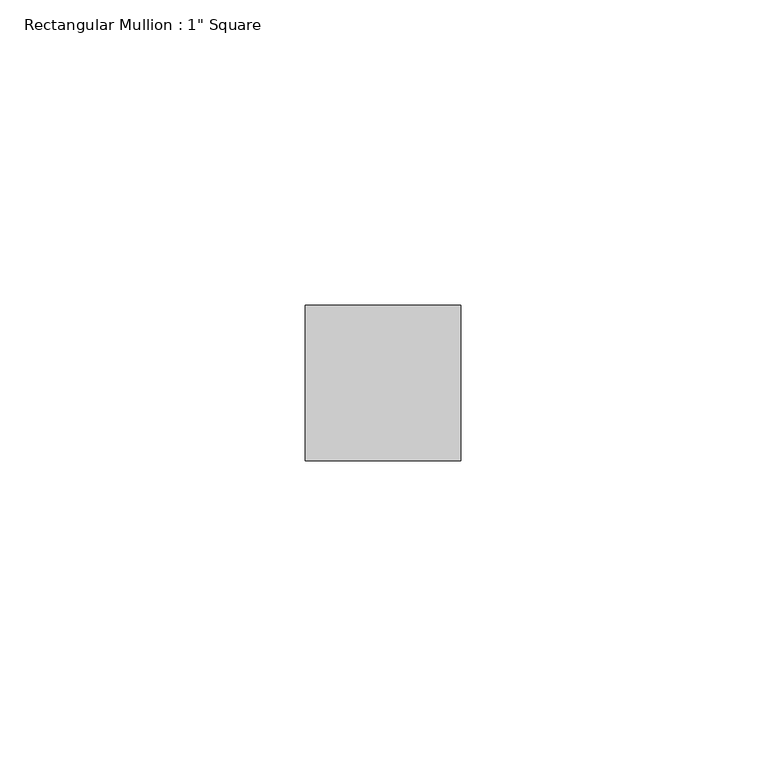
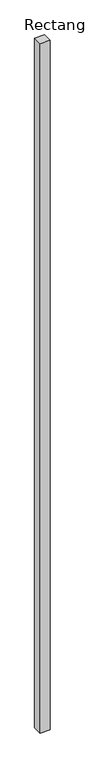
"""IFC4 building model written with IfcOpenShell, lengths in millimetres: member geometry."""

import ifcopenshell
import ifcopenshell.guid

model = None  # the IFC model being written
_history = None  # IfcOwnerHistory: only IFC2X3 demands one
_inside = {}  # id of a spatial element -> (the spatial element, [elements in it])
_under = {}  # id of a project, library or spatial element -> (it, [spatial elements below it])
_declared = {}  # id of a project -> (the project, [libraries it declares])
_typed = {}  # id of a type object -> (the type object, [elements of that type])
_made_of = {}  # id of a material, layer set ... -> (it, [elements and type objects made of it])


def new_model(schema):
    """Start an empty IFC model of exactly this schema.

    Asked for "IFC4X3", IfcOpenShell would pick the latest addendum, in which some entities
    have other attributes; the version numbers below select the first issue.
    IFC2X3 requires an IfcOwnerHistory on every rooted entity: one is made here for all.
    """
    global model, _history
    if schema == "IFC4X3":
        model = ifcopenshell.file(schema_version=(4, 3, 0, 0))
    else:
        model = ifcopenshell.file(schema=schema)
    _inside.clear()
    _under.clear()
    _declared.clear()
    _typed.clear()
    _made_of.clear()
    _history = None
    if model.schema == "IFC2X3":
        org = make("IfcOrganization", Name="unknown")
        user = make(
            "IfcPersonAndOrganization",
            ThePerson=make("IfcPerson", FamilyName="unknown"),
            TheOrganization=org,
        )
        app = make(
            "IfcApplication",
            ApplicationDeveloper=org,
            Version="unknown",
            ApplicationFullName="unknown",
            ApplicationIdentifier="unknown",
        )
        _history = make(
            "IfcOwnerHistory",
            OwningUser=user,
            OwningApplication=app,
            ChangeAction="ADDED",
            CreationDate=0,
        )
    return model


def make(cls, **values):
    """One entity of the class cls with the attributes given. An attribute that is None is left unset."""
    return model.create_entity(
        cls, **{name: value for name, value in values.items() if value is not None}
    )


def rooted(cls, **values):
    """An entity with a GlobalId (a new one), such as an element, a storey or a relation."""
    return make(cls, GlobalId=ifcopenshell.guid.new(), OwnerHistory=_history, **values)


def si_unit(unit_type, name, prefix=None):
    """IfcSIUnit, for example si_unit("LENGTHUNIT", "METRE", prefix="MILLI")."""
    return make("IfcSIUnit", UnitType=unit_type, Prefix=prefix, Name=name)


def assignment(units):
    """IfcUnitAssignment: the units of a project."""
    return None if units is None else make("IfcUnitAssignment", Units=units)


def point(xyz):
    """IfcCartesianPoint."""
    return None if xyz is None else make("IfcCartesianPoint", Coordinates=xyz)


def direction(xyz):
    """IfcDirection."""
    return None if xyz is None else make("IfcDirection", DirectionRatios=xyz)


def frame(location, z_axis=None, x_axis=None):
    """IfcAxis2Placement3D, a coordinate frame: its origin and axes. An axis left out is left unset."""
    return make(
        "IfcAxis2Placement3D",
        Location=point(location),
        Axis=direction(z_axis),
        RefDirection=direction(x_axis),
    )


def origin():
    """The frame at (0, 0, 0) with its axes left unset."""
    return frame((0.0, 0.0, 0.0))


def place(relative_to, where):
    """IfcLocalPlacement: puts the frame where relative to a parent placement (None: the world)."""
    return make(
        "IfcLocalPlacement", PlacementRelTo=relative_to, RelativePlacement=where
    )


def context(
    kind, dimensions, precision=None, world=None, true_north=None, identifier=None
):
    """IfcGeometricRepresentationContext, for example the 3D "Model" context."""
    return make(
        "IfcGeometricRepresentationContext",
        ContextIdentifier=identifier,
        ContextType=kind,
        CoordinateSpaceDimension=dimensions,
        Precision=precision,
        WorldCoordinateSystem=world,
        TrueNorth=true_north,
    )


def project(units=None, contexts=None):
    """IfcProject with its units and contexts."""
    return rooted(
        "IfcProject",
        Name="project",
        RepresentationContexts=contexts,
        UnitsInContext=assignment(units),
    )


def spatial(cls, under=None, at=None, **own):
    """A site, building, storey or space (cls), placed at a placement, below another one or the project."""
    s = rooted(cls, ObjectPlacement=at, **own)
    if under is not None:
        _under.setdefault(under.id(), (under, []))[1].append(s)
    return s


def polyline(points):
    """IfcPolyline through the points."""
    return make("IfcPolyline", Points=[point(p) for p in points])


def outline(outer, holes=None, kind="AREA"):
    """IfcArbitraryClosedProfileDef: a profile drawn as a closed curve; with holes, ...WithVoids."""
    if holes is None:
        return make("IfcArbitraryClosedProfileDef", ProfileType=kind, OuterCurve=outer)
    return make(
        "IfcArbitraryProfileDefWithVoids",
        ProfileType=kind,
        OuterCurve=outer,
        InnerCurves=holes,
    )


def extrude(swept, where, along, depth):
    """IfcExtrudedAreaSolid: the profile swept, set in the frame where, extruded along a direction by depth."""
    return make(
        "IfcExtrudedAreaSolid",
        SweptArea=swept,
        Position=where,
        ExtrudedDirection=direction(along),
        Depth=depth,
    )


def shape(context_of_items, identifier, shape_type, items):
    """IfcShapeRepresentation: the items that make up one representation, for example the "Body"."""
    return make(
        "IfcShapeRepresentation",
        ContextOfItems=context_of_items,
        RepresentationIdentifier=identifier,
        RepresentationType=shape_type,
        Items=items,
    )


def source(mapping_origin, context_of_items, identifier, shape_type, items):
    """IfcRepresentationMap: a shape defined once, which mapped items show again and again."""
    return make(
        "IfcRepresentationMap",
        MappingOrigin=mapping_origin,
        MappedRepresentation=shape(context_of_items, identifier, shape_type, items),
    )


def transform(
    local_origin,
    x_axis=None,
    y_axis=None,
    z_axis=None,
    scale=None,
    scale2=None,
    scale3=None,
    uniform=True,
):
    """IfcCartesianTransformationOperator3D, or its non-uniform kind. x_axis, y_axis, z_axis: its Axis1, 2, 3."""
    if uniform:
        return make(
            "IfcCartesianTransformationOperator3D",
            Axis1=direction(x_axis),
            Axis2=direction(y_axis),
            LocalOrigin=point(local_origin),
            Scale=scale,
            Axis3=direction(z_axis),
        )
    return make(
        "IfcCartesianTransformationOperator3DnonUniform",
        Axis1=direction(x_axis),
        Axis2=direction(y_axis),
        LocalOrigin=point(local_origin),
        Scale=scale,
        Axis3=direction(z_axis),
        Scale2=scale2,
        Scale3=scale3,
    )


def mapped(mapping_source, mapping_target):
    """IfcMappedItem: shows the shape of a source again, moved by a transform."""
    return make(
        "IfcMappedItem", MappingSource=mapping_source, MappingTarget=mapping_target
    )


def made_of(thing, what):
    """Note that an element or type object is made of a material, layer set ...; save() writes the relation."""
    if what is not None:
        _made_of.setdefault(what.id(), (what, []))[1].append(thing)
    return thing


def element(
    cls,
    number,
    at=None,
    inside=None,
    cuts=None,
    type_object=None,
    material=None,
    context=None,
    identifier="Body",
    shape_type=None,
    held_by="IfcProductDefinitionShape",
    body=None,
    shapes=None,
    **own,
):
    """One element of the class cls, such as IfcWall. Its Tag is "e" and its number.

    at: its placement. inside: the storey or other place that contains it. cuts: it is an
    opening in that element (IfcRelVoidsElement). A single representation is given by context,
    identifier, shape_type and body (its items); several are given by shapes. held_by: the class
    of the entity that holds the representations. save() writes the other relations.
    """
    e = rooted(cls, Tag="e%d" % number, ObjectPlacement=at, **own)
    if body is not None:
        shapes = [shape(context, identifier, shape_type, body)]
    if shapes is not None:
        e.Representation = make(held_by, Representations=shapes)
    if inside is not None:
        _inside.setdefault(inside.id(), (inside, []))[1].append(e)
    if cuts is not None:
        rooted(
            "IfcRelVoidsElement", RelatingBuildingElement=cuts, RelatedOpeningElement=e
        )
    if type_object is not None:
        _typed.setdefault(type_object.id(), (type_object, []))[1].append(e)
    return made_of(e, material)


def aggregate(whole, parts):
    """IfcRelAggregates: a whole, such as a stair, and the parts it consists of."""
    return rooted("IfcRelAggregates", RelatingObject=whole, RelatedObjects=parts)


def save(model, path):
    """Write the relations noted so far, then the file.

    IfcRelAggregates (storeys below a building ...), IfcRelContainedInSpatialStructure (elements
    in a storey), IfcRelDefinesByType, IfcRelAssociatesMaterial and IfcRelDeclares: one each for
    every whole, place, type object, material and project.
    """
    for whole, parts in _under.values():
        aggregate(whole, parts)
    for where, things in _inside.values():
        rooted(
            "IfcRelContainedInSpatialStructure",
            RelatedElements=things,
            RelatingStructure=where,
        )
    for kind, things in _typed.values():
        rooted("IfcRelDefinesByType", RelatedObjects=things, RelatingType=kind)
    for what, things in _made_of.values():
        rooted("IfcRelAssociatesMaterial", RelatedObjects=things, RelatingMaterial=what)
    for by, libraries in _declared.values():
        rooted("IfcRelDeclares", RelatingContext=by, RelatedDefinitions=libraries)
    model.write(path)


def member_f0155a20(model_context):
    return source(origin(), model_context, "Body", "SweptSolid", [
        extrude(outline(polyline([(12.7, 12.7), (12.7, -12.7), (-12.7, -12.7), (-12.7, 12.7), (12.7, 12.7)])), frame((0.0, 0.0, -1914.3683635), z_axis=(0.0, 0.0, 1.0), x_axis=(1.0, 0.0, 0.0)), (0.0, 0.0, 1.0), 1914.3683635),
    ])


if __name__ == "__main__":
    model = new_model("IFC4")
    model_context = context("Model", 3, world=origin())
    ifc_project = project(units=[si_unit("LENGTHUNIT", "METRE", prefix="MILLI")], contexts=[model_context])
    site = spatial("IfcSite", under=ifc_project)
    building = spatial("IfcBuilding", under=site)
    placement = place(None, origin())
    member_shape = member_f0155a20(model_context)
    element("IfcMember", 1, ObjectType="Rectangular Mullion : 1\" Square", at=placement, inside=building, context=model_context, shape_type="MappedRepresentation", body=[
        mapped(member_shape, transform((0.0, 0.0, 0.0), x_axis=(1.0, 0.0, 0.0), y_axis=(0.0, 1.0, 0.0), z_axis=(0.0, 0.0, 1.0))),
    ])
    save(model, "model.ifc")
